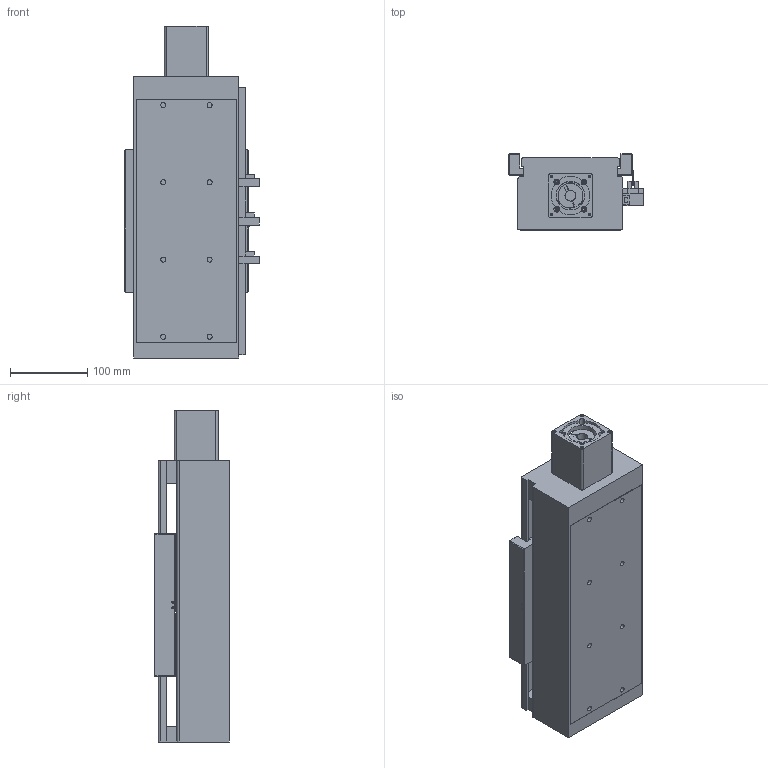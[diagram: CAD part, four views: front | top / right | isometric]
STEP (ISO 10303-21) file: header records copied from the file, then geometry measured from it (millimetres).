
FILE_DESCRIPTION((''),'2;1');
FILE_NAME('E:\libraries\UIA actuator library 2009\standard actuator\UIA136 ball screw 20\UIA136R15NDC stp file 27Apr16\UIA136R15NDC-100-R20_ _-M60-P13-C10-S.stp','2016-04-27T13:22:09',('h029'),(''),'Autodesk Inventor 11','Autodesk Inventor 11','');
FILE_SCHEMA(('AUTOMOTIVE_DESIGN { 1 0 10303 214 1 1 1 1 }'));
Length unit declared in the file: millimetre
Products named in the file (10): UIA136R15NDC-100; UIA136R15NDC-body; motor mount F60; SOH-32C; SOH-32C-3; SOH-32C-1; SOH-32C-2; Carriage; Sensor Switch; sensor rail
Assembly tree (9 placements, depth 3):
  UIA136R15NDC-100
    UIA136R15NDC-body
    motor mount F60
    SOH-32C
      SOH-32C-3
      SOH-32C-1
      SOH-32C-2
    Carriage
    Sensor Switch
    sensor rail
Bounding box: 174.5 x 98 x 430 mm (x, y, z)
Volume: 2162642.6 mm3; surface area: 512086.3 mm2
Topology: 8 solids, 8 shells, 467 faces, 1245 edges, 817 vertices
Faces by surface type: plane 311, bspline 114, cylinder 38, cone 4
Full cylindrical faces by diameter (mm): 2.459 x2, 3.242 x2, 4.5 x2, 5.5 x3, 7.5 x2, 10 x2, 12 x1, 14 x1, 32 x3, 37 x1, 41.9 x1, 42.1 x1, 43.5 x1
Entity records: 15315 total; most frequent: CARTESIAN_POINT 4370, ORIENTED_EDGE 2130, DIRECTION 2066, EDGE_CURVE 1065, VECTOR 790, LINE 790, VERTEX_POINT 752, EDGE_LOOP 673
